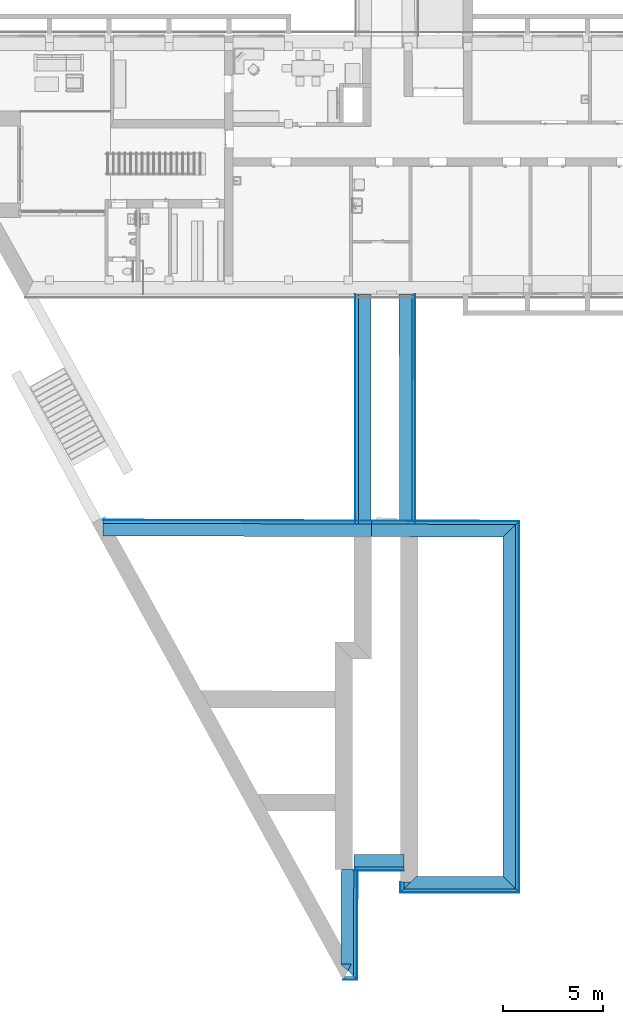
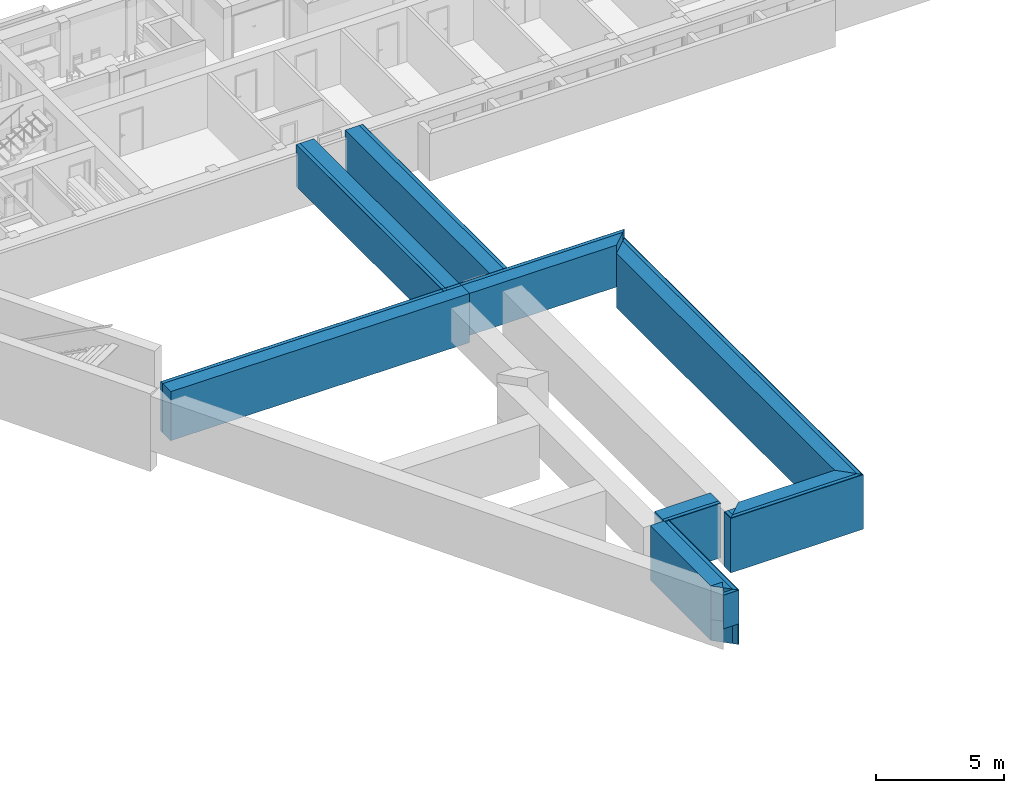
# One storey, part 27 of 127: 30 building element parts, 10 elements without a shape of their own.
"""IFC2X3 building model written with IfcOpenShell, lengths in millimetres."""

from ifc_helpers import new_model, entity, si_unit, converted_unit, derived_unit, money_unit, direction, frame, origin_with_axes, place, context, subcontext, project, spatial, polyline, outline, extrude, material, type_object, element, aggregate, save


model = new_model("IFC2X3")

# Units and contexts
model_context = context("Model", 3, precision=1e-05, world=origin_with_axes(), true_north=direction((0.0, 1.0)))
body_context = subcontext(model_context, "Body", "Model", "MODEL_VIEW")
ifc_project = project(units=[si_unit("LENGTHUNIT", "METRE", prefix="MILLI"), si_unit("AREAUNIT", "SQUARE_METRE"), si_unit("VOLUMEUNIT", "CUBIC_METRE"), converted_unit("PLANEANGLEUNIT", "DEGREE", entity("IfcPlaneAngleMeasure", 0.0174532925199), si_unit("PLANEANGLEUNIT", "RADIAN"), dimensions=[0, 0, 0, 0, 0, 0, 0]), si_unit("SOLIDANGLEUNIT", "STERADIAN"), money_unit("EUR"), converted_unit("TIMEUNIT", "Year", entity("IfcTimeMeasure", 31556926.0), si_unit("TIMEUNIT", "SECOND"), dimensions=[0, 0, 1, 0, 0, 0, 0]), si_unit("MASSUNIT", "GRAM", prefix="KILO"), si_unit("THERMODYNAMICTEMPERATUREUNIT", "DEGREE_CELSIUS"), si_unit("LUMINOUSINTENSITYUNIT", "LUMEN"), si_unit("ENERGYUNIT", "JOULE", prefix="MEGA"), derived_unit("THERMALCONDUCTANCEUNIT", [(si_unit("POWERUNIT", "WATT"), 1), (si_unit("LENGTHUNIT", "METRE"), -1), (si_unit("THERMODYNAMICTEMPERATUREUNIT", "KELVIN"), -1)]), derived_unit("SPECIFICHEATCAPACITYUNIT", [(si_unit("ENERGYUNIT", "JOULE"), 1), (si_unit("MASSUNIT", "GRAM", prefix="KILO"), -1), (si_unit("THERMODYNAMICTEMPERATUREUNIT", "KELVIN"), -1)]), derived_unit("MASSDENSITYUNIT", [(si_unit("MASSUNIT", "GRAM", prefix="KILO"), 1), (si_unit("VOLUMEUNIT", "CUBIC_METRE"), -1)])], contexts=[model_context])

# Site, building, storey
site_placement = place(None, origin_with_axes())
site = spatial("IfcSite", under=ifc_project, at=site_placement, Name="Site", CompositionType="ELEMENT")
building_placement = place(site_placement, origin_with_axes())
building = spatial("IfcBuilding", under=site, at=building_placement, Name="Building", CompositionType="ELEMENT")
storey_placement = place(building_placement, origin_with_axes())
storey = spatial("IfcBuildingStorey", under=building, at=storey_placement, Name="1 KORRUS", CompositionType="ELEMENT", Elevation=0.0)

# Wall, building element parts
wall_type_1 = type_object("IfcWallType", Name="VS-2", PredefinedType="NOTDEFINED")
wall_1_placement = place(storey_placement, frame((39734.0399019, 4747.25677248, 0.0), z_axis=(0.0, 0.0, 1.0), x_axis=(0.0, -1.0, 0.0)))
wall_1 = element("IfcWall", 1, at=wall_1_placement, inside=storey, type_object=wall_type_1, Name="VS2 paekivi")
ifc_material_1 = material(Name="Kivi - Ol.Olev Konstruktsioon")
building_element_part_1_placement = place(wall_1_placement, origin_with_axes())
building_element_part_1 = element("IfcBuildingElementPart", 2, at=building_element_part_1_placement, material=ifc_material_1, Name="Kivi - Ol.Olev Konstruktsioon", context=body_context, shape_type="SweptSolid", body=[
    extrude(outline(polyline([(0.0, 0.0), (340.93601298, 0.0), (-288.642891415, 630.0), (0.0, 630.0), (0.0, 0.0)])), origin_with_axes(), (0.0, 0.0, 1.0), 2600.0),
])
ifc_material_2 = material(Name="Soojustus - Plastik Kõva")
building_element_part_2_placement = place(wall_1_placement, origin_with_axes())
building_element_part_2 = element("IfcBuildingElementPart", 3, at=building_element_part_2_placement, material=ifc_material_2, Name="Soojustus - Plastik Kõva", context=body_context, shape_type="SweptSolid", body=[
    extrude(outline(polyline([(0.0, -160.0), (500.829068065, -160.0), (340.93601298, 0.0), (0.0, 0.0), (0.0, -160.0)])), origin_with_axes(), (0.0, 0.0, 1.0), 2600.0),
])
ifc_material_3 = material(Name="Kivi - Viimistlus")
building_element_part_3_placement = place(wall_1_placement, origin_with_axes())
building_element_part_3 = element("IfcBuildingElementPart", 4, at=building_element_part_3_placement, material=ifc_material_3, Name="Kivi - Viimistlus", context=body_context, shape_type="SweptSolid", body=[
    extrude(outline(polyline([(0.0, -190.0), (530.809015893, -190.0), (500.829068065, -160.0), (0.0, -160.0), (0.0, -190.0)])), origin_with_axes(), (0.0, 0.0, 1.0), 2600.0),
])
aggregate(wall_1, [building_element_part_1, building_element_part_2, building_element_part_3])

wall_2_placement = place(storey_placement, frame((39734.0399019, 5495.8042345, 0.0), z_axis=(0.0, 0.0, 1.0), x_axis=(-1.0, 0.0, 0.0)))
wall_2 = element("IfcWall", 5, at=wall_2_placement, inside=storey, type_object=wall_type_1, Name="VS2 paekivi")
building_element_part_4_placement = place(wall_2_placement, origin_with_axes())
building_element_part_4 = element("IfcBuildingElementPart", 6, at=building_element_part_4_placement, material=ifc_material_1, Name="Kivi - Ol.Olev Konstruktsioon", context=body_context, shape_type="SweptSolid", body=[
    extrude(outline(polyline([(0.0, -630.0), (2514.86167402, -630.0), (2514.86167402, 0.0), (0.0, 0.0), (0.0, -630.0)])), origin_with_axes(), (0.0, 0.0, 1.0), 2600.0),
])
building_element_part_5_placement = place(wall_2_placement, origin_with_axes())
building_element_part_5 = element("IfcBuildingElementPart", 7, at=building_element_part_5_placement, material=ifc_material_2, Name="Soojustus - Plastik Kõva", context=body_context, shape_type="SweptSolid", body=[
    extrude(outline(polyline([(0.0, 0.0), (2514.86167402, 0.0), (2514.86167402, 160.0), (0.0, 160.0), (0.0, 0.0)])), origin_with_axes(), (0.0, 0.0, 1.0), 2600.0),
])
building_element_part_6_placement = place(wall_2_placement, origin_with_axes())
building_element_part_6 = element("IfcBuildingElementPart", 8, at=building_element_part_6_placement, material=ifc_material_3, Name="Kivi - Viimistlus", context=body_context, shape_type="SweptSolid", body=[
    extrude(outline(polyline([(0.0, 160.0), (2514.86167402, 160.0), (2514.86167402, 190.0), (0.0, 190.0), (0.0, 160.0)])), origin_with_axes(), (0.0, 0.0, 1.0), 2600.0),
])
aggregate(wall_2, [building_element_part_4, building_element_part_5, building_element_part_6])

wall_type_2 = type_object("IfcWallType", Name="VS-3", PredefinedType="NOTDEFINED")
wall_3_placement = place(storey_placement, frame((37460.1551196, 34251.2818067, 1000.0), z_axis=(0.0, 0.0, 1.0), x_axis=(-0.000351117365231, -0.999999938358, 0.0)))
wall_3 = element("IfcWall", 9, at=wall_3_placement, inside=storey, type_object=wall_type_2, Name="VS3 krohv")
building_element_part_7_placement = place(wall_3_placement, origin_with_axes())
building_element_part_7 = element("IfcBuildingElementPart", 10, at=building_element_part_7_placement, material=ifc_material_1, Name="Kivi - Ol.Olev Konstruktsioon", context=body_context, shape_type="SweptSolid", body=[
    extrude(outline(polyline([(0.0, 0.0), (11533.3367549, 1.13686837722e-10), (11533.3367549, 630.0), (9.09494701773e-10, 630.0), (0.0, 0.0)])), origin_with_axes(), (0.0, 0.0, 1.0), 2000.0),
])
building_element_part_8_placement = place(wall_3_placement, origin_with_axes())
building_element_part_8 = element("IfcBuildingElementPart", 11, at=building_element_part_8_placement, material=ifc_material_2, Name="Soojustus - Plastik Kõva", context=body_context, shape_type="SweptSolid", body=[
    extrude(outline(polyline([(0.0, -160.0), (11533.3367549, -160.0), (11533.3367549, 1.13686837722e-10), (0.0, 0.0), (0.0, -160.0)])), origin_with_axes(), (0.0, 0.0, 1.0), 2000.0),
])
ifc_material_4 = material(Name="Krohv - Õhekrohv")
building_element_part_9_placement = place(wall_3_placement, origin_with_axes())
building_element_part_9 = element("IfcBuildingElementPart", 12, at=building_element_part_9_placement, material=ifc_material_4, Name="Krohv - Õhekrohv", context=body_context, shape_type="SweptSolid", body=[
    extrude(outline(polyline([(0.0, -170.0), (11533.3367549, -170.0), (11533.3367549, -160.0), (0.0, -160.0), (0.0, -170.0)])), origin_with_axes(), (0.0, 0.0, 1.0), 2000.0),
])
aggregate(wall_3, [building_element_part_7, building_element_part_8, building_element_part_9])

wall_type_3 = type_object("IfcWallType", Name="P-4", PredefinedType="NOTDEFINED")
wall_4_placement = place(storey_placement, frame((40130.6350231, 34251.5770662, 1000.0), z_axis=(0.0, 0.0, 1.0), x_axis=(0.000474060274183, -0.999999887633, 0.0)))
wall_4 = element("IfcWall", 13, at=wall_4_placement, inside=storey, type_object=wall_type_3, Name="VS3 krohv")
building_element_part_10_placement = place(wall_4_placement, origin_with_axes())
building_element_part_10 = element("IfcBuildingElementPart", 14, at=building_element_part_10_placement, material=ifc_material_1, Name="Kivi - Ol.Olev Konstruktsioon", context=body_context, shape_type="SweptSolid", body=[
    extrude(outline(polyline([(0.0, -630.0), (11541.0733028, -630.0), (11541.0733028, 1.13686837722e-10), (0.0, 0.0), (0.0, -630.0)])), origin_with_axes(), (0.0, 0.0, 1.0), 1920.0),
])
building_element_part_11_placement = place(wall_4_placement, origin_with_axes())
building_element_part_11 = element("IfcBuildingElementPart", 15, at=building_element_part_11_placement, material=ifc_material_2, Name="Soojustus - Plastik Kõva", context=body_context, shape_type="SweptSolid", body=[
    extrude(outline(polyline([(0.0, 0.0), (11541.0733028, 1.13686837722e-10), (11541.0733028, 160.0), (0.0, 160.0), (0.0, 0.0)])), origin_with_axes(), (0.0, 0.0, 1.0), 1920.0),
])
building_element_part_12_placement = place(wall_4_placement, origin_with_axes())
building_element_part_12 = element("IfcBuildingElementPart", 16, at=building_element_part_12_placement, material=ifc_material_4, Name="Krohv - Õhekrohv", context=body_context, shape_type="SweptSolid", body=[
    extrude(outline(polyline([(0.0, 160.0), (11541.0733028, 160.0), (11541.0733028, 170.0), (0.0, 170.0), (0.0, 160.0)])), origin_with_axes(), (0.0, 0.0, 1.0), 1920.0),
])
aggregate(wall_4, [building_element_part_10, building_element_part_11, building_element_part_12])

wall_5_placement = place(storey_placement, frame((37204.4492815, 1.99999986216, 1000.0), z_axis=(0.0, 0.0, 1.0), x_axis=(-1.0, 0.0, 0.0)))
wall_5 = element("IfcWall", 17, at=wall_5_placement, inside=storey, type_object=wall_type_2, Name="VS3 krohv")
building_element_part_13_placement = place(wall_5_placement, origin_with_axes())
building_element_part_13 = element("IfcBuildingElementPart", 18, at=building_element_part_13_placement, material=ifc_material_1, Name="Kivi - Ol.Olev Konstruktsioon", context=body_context, shape_type="SweptSolid", body=[
    extrude(outline(polyline([(628.047558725, -630.0), (107.384676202, -630.0), (426.006467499, 0.0), (-15.7500758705, 0.0), (628.047558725, -630.0)])), origin_with_axes(), (0.0, 0.0, 1.0), 1600.0),
])
building_element_part_14_placement = place(wall_5_placement, origin_with_axes())
building_element_part_14 = element("IfcBuildingElementPart", 19, at=building_element_part_14_placement, material=ifc_material_2, Name="Soojustus - Plastik Kõva", context=body_context, shape_type="SweptSolid", body=[
    extrude(outline(polyline([(-15.7500758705, 0.0), (426.006467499, 0.0), (506.926287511, 160.0), (-179.254237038, 160.0), (-15.7500758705, 0.0)])), origin_with_axes(), (0.0, 0.0, 1.0), 1600.0),
])
building_element_part_15_placement = place(wall_5_placement, origin_with_axes())
building_element_part_15 = element("IfcBuildingElementPart", 20, at=building_element_part_15_placement, material=ifc_material_4, Name="Krohv - Õhekrohv", context=body_context, shape_type="SweptSolid", body=[
    extrude(outline(polyline([(-179.254237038, 160.0), (506.926287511, 160.0), (511.983776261, 170.0), (-189.473247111, 170.0), (-179.254237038, 160.0)])), origin_with_axes(), (0.0, 0.0, 1.0), 1600.0),
])
aggregate(wall_5, [building_element_part_13, building_element_part_14, building_element_part_15])

wall_6_placement = place(storey_placement, frame((45335.0690327, 4402.57574758, 0.0), z_axis=(0.0, 0.0, 1.0), x_axis=(0.0, 1.0, 0.0)))
wall_6 = element("IfcWall", 21, at=wall_6_placement, inside=storey, type_object=wall_type_1, Name="VS2 paekivi")
building_element_part_16_placement = place(wall_6_placement, origin_with_axes())
building_element_part_16 = element("IfcBuildingElementPart", 22, at=building_element_part_16_placement, material=ifc_material_1, Name="Kivi - Ol.Olev Konstruktsioon", context=body_context, shape_type="SweptSolid", body=[
    extrude(outline(polyline([(0.0, 0.0), (18278.8955746, 0.0), (17665.9470555, 630.0), (630.421377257, 630.0), (0.0, 0.0)])), origin_with_axes(), (0.0, 0.0, 1.0), 2600.0),
])
building_element_part_17_placement = place(wall_6_placement, origin_with_axes())
building_element_part_17 = element("IfcBuildingElementPart", 23, at=building_element_part_17_placement, material=ifc_material_2, Name="Soojustus - Plastik Kõva", context=body_context, shape_type="SweptSolid", body=[
    extrude(outline(polyline([(-160.107016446, -160.0), (18434.5650398, -160.0), (18278.8955746, 0.0), (0.0, 0.0), (-160.107016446, -160.0)])), origin_with_axes(), (0.0, 0.0, 1.0), 2600.0),
])
building_element_part_18_placement = place(wall_6_placement, origin_with_axes())
building_element_part_18 = element("IfcBuildingElementPart", 24, at=building_element_part_18_placement, material=ifc_material_3, Name="Kivi - Viimistlus", context=body_context, shape_type="SweptSolid", body=[
    extrude(outline(polyline([(-190.12708203, -190.0), (18463.7530645, -190.0), (18434.5650398, -160.0), (-160.107016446, -160.0), (-190.12708203, -190.0)])), origin_with_axes(), (0.0, 0.0, 1.0), 2600.0),
])
aggregate(wall_6, [building_element_part_16, building_element_part_17, building_element_part_18])

wall_7_placement = place(storey_placement, frame((39734.0399019, 4406.3207595, 0.0), z_axis=(0.0, 0.0, 1.0), x_axis=(0.999999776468, -0.000668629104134, 0.0)))
wall_7 = element("IfcWall", 25, at=wall_7_placement, inside=storey, type_object=wall_type_1, Name="VS2 paekivi")
building_element_part_19_placement = place(wall_7_placement, origin_with_axes())
building_element_part_19 = element("IfcBuildingElementPart", 26, at=building_element_part_19_placement, material=ifc_material_1, Name="Kivi - Ol.Olev Konstruktsioon", context=body_context, shape_type="SweptSolid", body=[
    extrude(outline(polyline([(0.0, 0.0), (5601.03038282, 0.0), (4970.60900557, 630.0), (629.578904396, 630.000000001), (0.0, 0.0)])), origin_with_axes(), (0.0, 0.0, 1.0), 2600.0),
])
building_element_part_20_placement = place(wall_7_placement, origin_with_axes())
building_element_part_20 = element("IfcBuildingElementPart", 27, at=building_element_part_20_placement, material=ifc_material_2, Name="Soojustus - Plastik Kõva", context=body_context, shape_type="SweptSolid", body=[
    extrude(outline(polyline([(-159.893055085, -160.000000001), (5761.13739927, -160.000000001), (5601.03038282, 0.0), (0.0, 0.0), (-159.893055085, -160.000000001)])), origin_with_axes(), (0.0, 0.0, 1.0), 2600.0),
])
building_element_part_21_placement = place(wall_7_placement, origin_with_axes())
building_element_part_21 = element("IfcBuildingElementPart", 28, at=building_element_part_21_placement, material=ifc_material_3, Name="Kivi - Viimistlus", context=body_context, shape_type="SweptSolid", body=[
    extrude(outline(polyline([(-189.873002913, -190.0), (5791.15746485, -190.000000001), (5761.13739927, -160.000000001), (-159.893055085, -160.000000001), (-189.873002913, -190.0)])), origin_with_axes(), (0.0, 0.0, 1.0), 2600.0),
])
aggregate(wall_7, [building_element_part_19, building_element_part_20, building_element_part_21])

wall_8_placement = place(storey_placement, frame((37204.4492815, 1.99999986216, 0.0), z_axis=(0.0, 0.0, 1.0), x_axis=(0.00310391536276, 0.999995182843, 0.0)))
wall_8 = element("IfcWall", 29, at=wall_8_placement, inside=storey, type_object=wall_type_1, Name="VS2 paekivi")
building_element_part_22_placement = place(wall_8_placement, origin_with_axes())
building_element_part_22 = element("IfcBuildingElementPart", 30, at=building_element_part_22_placement, material=ifc_material_1, Name="Kivi - Ol.Olev Konstruktsioon", context=body_context, shape_type="SweptSolid", body=[
    extrude(outline(polyline([(15.3659276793, 0.0), (5375.2826662, 0.0), (5375.2826662, 630.0), (628.047558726, 630.0), (15.3659276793, 0.0)])), origin_with_axes(), (0.0, 0.0, 1.0), 2600.0),
])
building_element_part_23_placement = place(wall_8_placement, origin_with_axes())
building_element_part_23 = element("IfcBuildingElementPart", 31, at=building_element_part_23_placement, material=ifc_material_2, Name="Soojustus - Plastik Kõva", context=body_context, shape_type="SweptSolid", body=[
    extrude(outline(polyline([(-140.235756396, -160.0), (5375.2826662, -160.0), (5375.2826662, 0.0), (15.3659276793, 0.0), (-140.235756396, -160.0)])), origin_with_axes(), (0.0, 0.0, 1.0), 2600.0),
])
building_element_part_24_placement = place(wall_8_placement, origin_with_axes())
building_element_part_24 = element("IfcBuildingElementPart", 32, at=building_element_part_24_placement, material=ifc_material_3, Name="Kivi - Viimistlus", context=body_context, shape_type="SweptSolid", body=[
    extrude(outline(polyline([(-169.41107216, -190.0), (5375.2826662, -190.0), (5375.2826662, -160.0), (-140.235756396, -160.0), (-169.41107216, -190.0)])), origin_with_axes(), (0.0, 0.0, 1.0), 2600.0),
])
aggregate(wall_8, [building_element_part_22, building_element_part_23, building_element_part_24])

wall_9_placement = place(storey_placement, frame((24644.0792456, 22758.3148651, 659.329518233), z_axis=(0.0, 0.0, 1.0), x_axis=(0.999995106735, -0.00312833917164, 0.0)))
wall_9 = element("IfcWall", 33, at=wall_9_placement, inside=storey, type_object=wall_type_2, Name="VS3 krohv")
building_element_part_25_placement = place(wall_9_placement, origin_with_axes())
building_element_part_25 = element("IfcBuildingElementPart", 34, at=building_element_part_25_placement, material=ifc_material_1, Name="Kivi - Ol.Olev Konstruktsioon", context=body_context, shape_type="SweptSolid", body=[
    extrude(outline(polyline([(0.0, -630.0), (13454.5034359, -630.0), (13454.3619219, -9.09494701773e-10), (0.0, -9.09494701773e-10), (0.0, -630.0)])), origin_with_axes(), (0.0, 0.0, 1.0), 2340.67048177),
])
building_element_part_26_placement = place(wall_9_placement, origin_with_axes())
building_element_part_26 = element("IfcBuildingElementPart", 35, at=building_element_part_26_placement, material=ifc_material_2, Name="Soojustus - Plastik Kõva", context=body_context, shape_type="SweptSolid", body=[
    extrude(outline(polyline([(0.0, -9.09494701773e-10), (13454.3619219, -9.09494701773e-10), (13454.3259819, 159.999999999), (-1.13686837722e-10, 159.999999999), (0.0, -9.09494701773e-10)])), origin_with_axes(), (0.0, 0.0, 1.0), 2340.67048177),
])
building_element_part_27_placement = place(wall_9_placement, origin_with_axes())
building_element_part_27 = element("IfcBuildingElementPart", 36, at=building_element_part_27_placement, material=ifc_material_4, Name="Krohv - Õhekrohv", context=body_context, shape_type="SweptSolid", body=[
    extrude(outline(polyline([(-1.13686837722e-10, 159.999999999), (13454.3259819, 159.999999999), (13454.3237356, 170.0), (0.0, 170.0), (-1.13686837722e-10, 159.999999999)])), origin_with_axes(), (0.0, 0.0, 1.0), 2340.67048177),
])
aggregate(wall_9, [building_element_part_25, building_element_part_26, building_element_part_27])

wall_10_placement = place(storey_placement, frame((38098.3753318, 22716.2250577, 1000.0), z_axis=(0.0, 0.0, 1.0), x_axis=(0.999996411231, -0.00267909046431, 0.0)))
wall_10 = element("IfcWall", 37, at=wall_10_placement, inside=storey, type_object=wall_type_2, Name="VS3 krohv")
building_element_part_28_placement = place(wall_10_placement, origin_with_axes())
building_element_part_28 = element("IfcBuildingElementPart", 38, at=building_element_part_28_placement, material=ifc_material_1, Name="Kivi - Ol.Olev Konstruktsioon", context=body_context, shape_type="SweptSolid", body=[
    extrude(outline(polyline([(-0.141513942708, -630.0), (6608.40524387, -630.0), (7252.46972827, 0.0), (2.27373675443e-10, 0.0), (-0.141513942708, -630.0)])), origin_with_axes(), (0.0, 0.0, 1.0), 2000.0),
])
building_element_part_29_placement = place(wall_10_placement, origin_with_axes())
building_element_part_29 = element("IfcBuildingElementPart", 39, at=building_element_part_29_placement, material=ifc_material_2, Name="Soojustus - Plastik Kõva", context=body_context, shape_type="SweptSolid", body=[
    extrude(outline(polyline([(2.27373675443e-10, 0.0), (7252.46972827, 0.0), (7416.04166082, 159.999999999), (0.0359400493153, 160.0), (2.27373675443e-10, 0.0)])), origin_with_axes(), (0.0, 0.0, 1.0), 2000.0),
])
building_element_part_30_placement = place(wall_10_placement, origin_with_axes())
building_element_part_30 = element("IfcBuildingElementPart", 40, at=building_element_part_30_placement, material=ifc_material_4, Name="Krohv - Õhekrohv", context=body_context, shape_type="SweptSolid", body=[
    extrude(outline(polyline([(0.0359400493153, 160.0), (7416.04166082, 159.999999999), (7426.26490661, 170.0), (0.0381863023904, 170.0), (0.0359400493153, 160.0)])), origin_with_axes(), (0.0, 0.0, 1.0), 2000.0),
])
aggregate(wall_10, [building_element_part_28, building_element_part_29, building_element_part_30])

save(model, "model.ifc")
